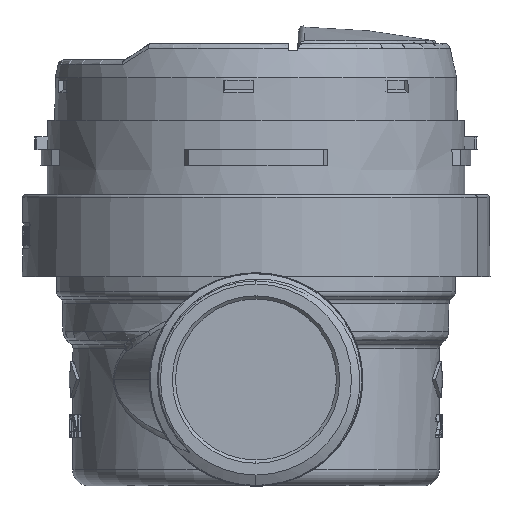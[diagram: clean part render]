
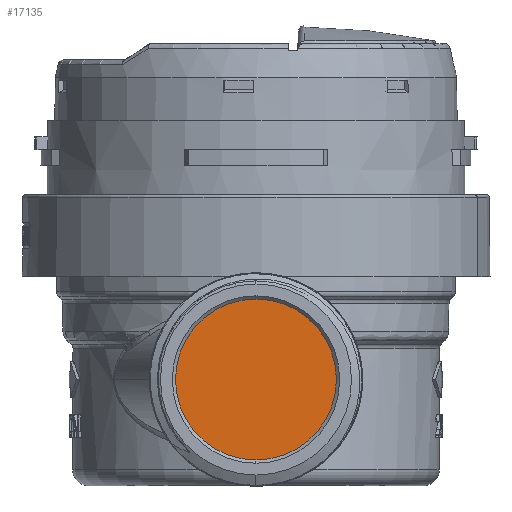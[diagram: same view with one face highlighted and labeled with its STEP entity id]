
A CAD part, left-side view. The second image highlights one B-rep face of the part: STEP entity #17135.
In plain terms, the highlighted planar face has unit normal (-1, 0, 0).
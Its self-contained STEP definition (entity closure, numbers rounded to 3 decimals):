
#17135 = ADVANCED_FACE ( 'NONE', ( #86298 ), #127125, .F. ) ;
#21421 = CARTESIAN_POINT ( 'NONE',  ( -58.5, 0., -12.5 ) ) ;
#22932 = EDGE_CURVE ( 'NONE', #109295, #45245, #50419, .T. ) ;
#24489 = CIRCLE ( 'NONE', #77943, 12.5 ) ;
#29130 = AXIS2_PLACEMENT_3D ( 'NONE', #132419, #80835, #121731 ) ;
#35419 = DIRECTION ( 'NONE',  ( 1., 0., 0. ) ) ;
#39303 = DIRECTION ( 'NONE',  ( -1., 0., 0. ) ) ;
#45245 = VERTEX_POINT ( 'NONE', #89758 ) ;
#50419 = CIRCLE ( 'NONE', #29130, 12.5 ) ;
#54762 = AXIS2_PLACEMENT_3D ( 'NONE', #74948, #35419, #76250 ) ;
#56369 = ORIENTED_EDGE ( 'NONE', *, *, #22932, .T. ) ;
#74948 = CARTESIAN_POINT ( 'NONE',  ( -58.5, 0., 0. ) ) ;
#76250 = DIRECTION ( 'NONE',  ( 0., 0., -1. ) ) ;
#77943 = AXIS2_PLACEMENT_3D ( 'NONE', #131010, #39303, #81434 ) ;
#80835 = DIRECTION ( 'NONE',  ( -1., 0., 0. ) ) ;
#81434 = DIRECTION ( 'NONE',  ( 0., 0., 1. ) ) ;
#84611 = EDGE_CURVE ( 'NONE', #45245, #109295, #24489, .T. ) ;
#86298 = FACE_OUTER_BOUND ( 'NONE', #93161, .T. ) ;
#89758 = CARTESIAN_POINT ( 'NONE',  ( -58.5, 0., 12.5 ) ) ;
#93161 = EDGE_LOOP ( 'NONE', ( #97315, #56369 ) ) ;
#97315 = ORIENTED_EDGE ( 'NONE', *, *, #84611, .T. ) ;
#109295 = VERTEX_POINT ( 'NONE', #21421 ) ;
#121731 = DIRECTION ( 'NONE',  ( 0., 0., 1. ) ) ;
#127125 = PLANE ( 'NONE',  #54762 ) ;
#131010 = CARTESIAN_POINT ( 'NONE',  ( -58.5, 0., 0. ) ) ;
#132419 = CARTESIAN_POINT ( 'NONE',  ( -58.5, 0., 0. ) ) ;
